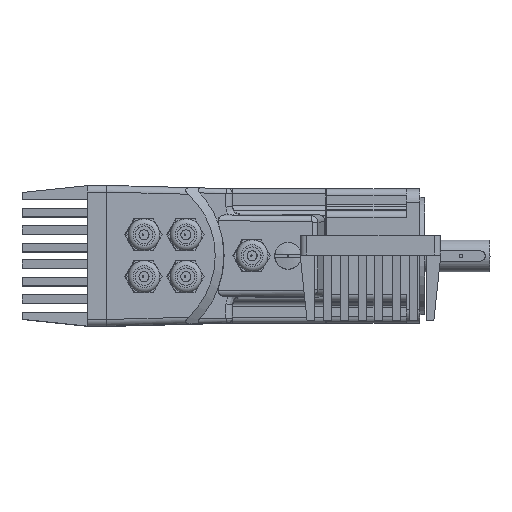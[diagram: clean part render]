
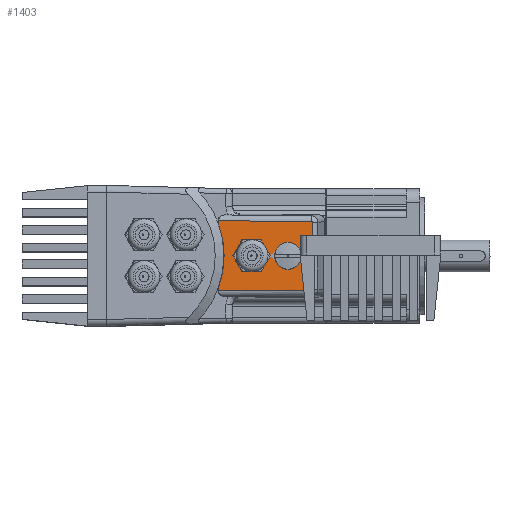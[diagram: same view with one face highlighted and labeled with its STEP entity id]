
A CAD part, top view. The second image highlights one B-rep face of the part: STEP entity #1403.
In plain terms, the highlighted planar face has unit normal (0.026, 0, 1).
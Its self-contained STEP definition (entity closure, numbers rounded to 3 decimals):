
#1403 = ADVANCED_FACE( '', ( #3945, #3946, #3947 ), #3948, .T. );
#3945 = FACE_OUTER_BOUND( '', #7915, .T. );
#3946 = FACE_BOUND( '', #7916, .T. );
#3947 = FACE_BOUND( '', #7917, .T. );
#3948 = PLANE( '', #7918 );
#7915 = EDGE_LOOP( '', ( #13002, #13003, #13004, #13005, #13006, #13007, #13008, #13009 ) );
#7916 = EDGE_LOOP( '', ( #13010 ) );
#7917 = EDGE_LOOP( '', ( #13011, #13012, #13013, #13014, #13015, #13016 ) );
#7918 = AXIS2_PLACEMENT_3D( '', #13017, #13018, #13019 );
#13002 = ORIENTED_EDGE( '', *, *, #23678, .F. );
#13003 = ORIENTED_EDGE( '', *, *, #23679, .F. );
#13004 = ORIENTED_EDGE( '', *, *, #23680, .F. );
#13005 = ORIENTED_EDGE( '', *, *, #23681, .F. );
#13006 = ORIENTED_EDGE( '', *, *, #23682, .F. );
#13007 = ORIENTED_EDGE( '', *, *, #23683, .F. );
#13008 = ORIENTED_EDGE( '', *, *, #23684, .F. );
#13009 = ORIENTED_EDGE( '', *, *, #23685, .F. );
#13010 = ORIENTED_EDGE( '', *, *, #23686, .F. );
#13011 = ORIENTED_EDGE( '', *, *, #23687, .F. );
#13012 = ORIENTED_EDGE( '', *, *, #23688, .F. );
#13013 = ORIENTED_EDGE( '', *, *, #23689, .F. );
#13014 = ORIENTED_EDGE( '', *, *, #23690, .F. );
#13015 = ORIENTED_EDGE( '', *, *, #23691, .F. );
#13016 = ORIENTED_EDGE( '', *, *, #23692, .F. );
#13017 = CARTESIAN_POINT( '', ( 35.781, 24.368, 70.117 ) );
#13018 = DIRECTION( '', ( 0.026, 0., 1. ) );
#13019 = DIRECTION( '', ( 0., -1., 0. ) );
#23678 = EDGE_CURVE( '', #28096, #28097, #28098, .T. );
#23679 = EDGE_CURVE( '', #28099, #28096, #28100, .T. );
#23680 = EDGE_CURVE( '', #28101, #28099, #28102, .T. );
#23681 = EDGE_CURVE( '', #28103, #28101, #28104, .T. );
#23682 = EDGE_CURVE( '', #28105, #28103, #28106, .T. );
#23683 = EDGE_CURVE( '', #28107, #28105, #28108, .T. );
#23684 = EDGE_CURVE( '', #28109, #28107, #28110, .T. );
#23685 = EDGE_CURVE( '', #28097, #28109, #28111, .T. );
#23686 = EDGE_CURVE( '', #28112, #28112, #28113, .T. );
#23687 = EDGE_CURVE( '', #28114, #28115, #28116, .T. );
#23688 = EDGE_CURVE( '', #28117, #28114, #28118, .T. );
#23689 = EDGE_CURVE( '', #28119, #28117, #28120, .T. );
#23690 = EDGE_CURVE( '', #28121, #28119, #28122, .T. );
#23691 = EDGE_CURVE( '', #28123, #28121, #28124, .T. );
#23692 = EDGE_CURVE( '', #28115, #28123, #28125, .T. );
#28096 = VERTEX_POINT( '', #34564 );
#28097 = VERTEX_POINT( '', #34565 );
#28098 = LINE( '', #34566, #34567 );
#28099 = VERTEX_POINT( '', #34568 );
#28100 = CIRCLE( '', #34569, 4. );
#28101 = VERTEX_POINT( '', #34570 );
#28102 = CIRCLE( '', #34571, 55.5 );
#28103 = VERTEX_POINT( '', #34572 );
#28104 = CIRCLE( '', #34573, 4. );
#28105 = VERTEX_POINT( '', #34574 );
#28106 = LINE( '', #34575, #34576 );
#28107 = VERTEX_POINT( '', #34577 );
#28108 = CIRCLE( '', #34578, 0.5 );
#28109 = VERTEX_POINT( '', #34579 );
#28110 = LINE( '', #34580, #34581 );
#28111 = CIRCLE( '', #34582, 0.5 );
#28112 = VERTEX_POINT( '', #34583 );
#28113 = CIRCLE( '', #34584, 8. );
#28114 = VERTEX_POINT( '', #34585 );
#28115 = VERTEX_POINT( '', #34586 );
#28116 = LINE( '', #34587, #34588 );
#28117 = VERTEX_POINT( '', #34589 );
#28118 = LINE( '', #34590, #34591 );
#28119 = VERTEX_POINT( '', #34592 );
#28120 = LINE( '', #34593, #34594 );
#28121 = VERTEX_POINT( '', #34595 );
#28122 = LINE( '', #34596, #34597 );
#28123 = VERTEX_POINT( '', #34598 );
#28124 = LINE( '', #34599, #34600 );
#28125 = LINE( '', #34601, #34602 );
#34564 = CARTESIAN_POINT( '', ( 31.786, 20.9, 70.221 ) );
#34565 = CARTESIAN_POINT( '', ( 87.361, 20.453, 68.766 ) );
#34566 = CARTESIAN_POINT( '', ( 35.753, 20.868, 70.118 ) );
#34567 = VECTOR( '', #43494, 1000. );
#34568 = CARTESIAN_POINT( '', ( 31.992, 18.999, 70.216 ) );
#34569 = AXIS2_PLACEMENT_3D( '', #43495, #43496, #43497 );
#34570 = CARTESIAN_POINT( '', ( 31.992, -18.999, 70.216 ) );
#34571 = AXIS2_PLACEMENT_3D( '', #43498, #43499, #43500 );
#34572 = CARTESIAN_POINT( '', ( 31.786, -20.9, 70.221 ) );
#34573 = AXIS2_PLACEMENT_3D( '', #43501, #43502, #43503 );
#34574 = CARTESIAN_POINT( '', ( 87.361, -20.453, 68.766 ) );
#34575 = CARTESIAN_POINT( '', ( 61.753, -20.659, 69.437 ) );
#34576 = VECTOR( '', #43504, 1000. );
#34577 = CARTESIAN_POINT( '', ( 87.857, -19.953, 68.753 ) );
#34578 = AXIS2_PLACEMENT_3D( '', #43505, #43506, #43507 );
#34579 = CARTESIAN_POINT( '', ( 87.857, 19.953, 68.753 ) );
#34580 = CARTESIAN_POINT( '', ( 87.857, 22.161, 68.753 ) );
#34581 = VECTOR( '', #43508, 1000. );
#34582 = AXIS2_PLACEMENT_3D( '', #43509, #43510, #43511 );
#34583 = CARTESIAN_POINT( '', ( 81.445, 0., 68.921 ) );
#34584 = AXIS2_PLACEMENT_3D( '', #43512, #43513, #43514 );
#34585 = CARTESIAN_POINT( '', ( 56.931, 9.5, 69.563 ) );
#34586 = CARTESIAN_POINT( '', ( 45.965, 9.5, 69.85 ) );
#34587 = CARTESIAN_POINT( '', ( 56.931, 9.5, 69.563 ) );
#34588 = VECTOR( '', #43515, 1000. );
#34589 = CARTESIAN_POINT( '', ( 62.414, 0., 69.419 ) );
#34590 = CARTESIAN_POINT( '', ( 62.414, 0., 69.419 ) );
#34591 = VECTOR( '', #43516, 1000. );
#34592 = CARTESIAN_POINT( '', ( 56.931, -9.5, 69.563 ) );
#34593 = CARTESIAN_POINT( '', ( 56.931, -9.5, 69.563 ) );
#34594 = VECTOR( '', #43517, 1000. );
#34595 = CARTESIAN_POINT( '', ( 45.965, -9.5, 69.85 ) );
#34596 = CARTESIAN_POINT( '', ( 45.965, -9.5, 69.85 ) );
#34597 = VECTOR( '', #43518, 1000. );
#34598 = CARTESIAN_POINT( '', ( 40.482, 0., 69.994 ) );
#34599 = CARTESIAN_POINT( '', ( 40.482, 0., 69.994 ) );
#34600 = VECTOR( '', #43519, 1000. );
#34601 = CARTESIAN_POINT( '', ( 45.965, 9.5, 69.85 ) );
#34602 = VECTOR( '', #43520, 1000. );
#43494 = DIRECTION( '', ( 1., -0.008, -0.026 ) );
#43495 = CARTESIAN_POINT( '', ( 35.749, 20.368, 70.118 ) );
#43496 = DIRECTION( '', ( -0.026, 0., -1. ) );
#43497 = DIRECTION( '', ( -1., 0., 0.026 ) );
#43498 = CARTESIAN_POINT( '', ( -20.137, 0., 71.581 ) );
#43499 = DIRECTION( '', ( 0.026, 0., 1. ) );
#43500 = DIRECTION( '', ( -1., 0., 0.026 ) );
#43501 = CARTESIAN_POINT( '', ( 35.749, -20.368, 70.118 ) );
#43502 = DIRECTION( '', ( -0.026, 0., -1. ) );
#43503 = DIRECTION( '', ( -1., 0., 0.026 ) );
#43504 = DIRECTION( '', ( -1., -0.008, 0.026 ) );
#43505 = CARTESIAN_POINT( '', ( 87.357, -19.953, 68.766 ) );
#43506 = DIRECTION( '', ( -0.026, 0., -1. ) );
#43507 = DIRECTION( '', ( 0.71, -0.704, -0.019 ) );
#43508 = DIRECTION( '', ( 0., -1., 0. ) );
#43509 = CARTESIAN_POINT( '', ( 87.357, 19.953, 68.766 ) );
#43510 = DIRECTION( '', ( -0.026, 0., -1. ) );
#43511 = DIRECTION( '', ( 0.71, 0.704, -0.019 ) );
#43512 = CARTESIAN_POINT( '', ( 73.448, 0., 69.131 ) );
#43513 = DIRECTION( '', ( 0.026, 0., 1. ) );
#43514 = DIRECTION( '', ( 1., 0., -0.026 ) );
#43515 = DIRECTION( '', ( -1., 0., 0.026 ) );
#43516 = DIRECTION( '', ( -0.5, 0.866, 0.013 ) );
#43517 = DIRECTION( '', ( 0.5, 0.866, -0.013 ) );
#43518 = DIRECTION( '', ( 1., 0., -0.026 ) );
#43519 = DIRECTION( '', ( 0.5, -0.866, -0.013 ) );
#43520 = DIRECTION( '', ( -0.5, -0.866, 0.013 ) );
